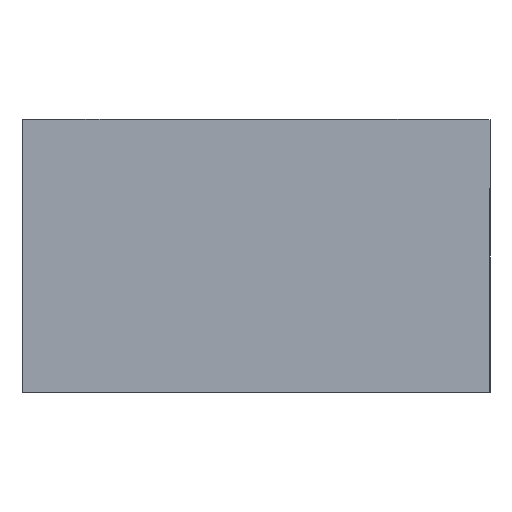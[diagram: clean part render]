
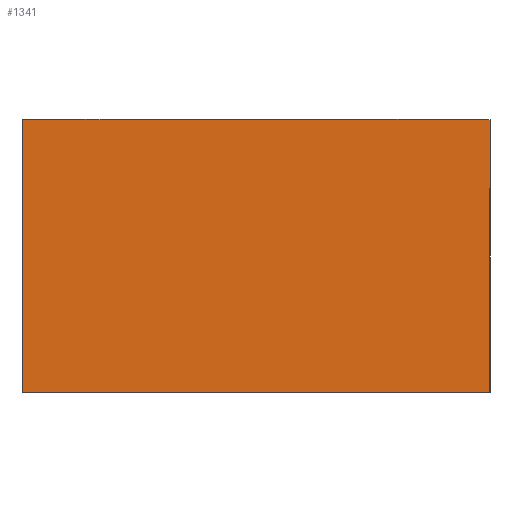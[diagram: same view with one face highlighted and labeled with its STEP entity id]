
A CAD part, front view. The second image highlights one B-rep face of the part: STEP entity #1341.
In plain terms, the highlighted planar face has unit normal (0, -1, 0).
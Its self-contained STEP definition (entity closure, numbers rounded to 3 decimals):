
#108 = EDGE_CURVE ( 'NONE', #230, #1179, #2050, .T. ) ;
#136 = EDGE_CURVE ( 'NONE', #1179, #573, #1502, .T. ) ;
#156 = VERTEX_POINT ( 'NONE', #547 ) ;
#230 = VERTEX_POINT ( 'NONE', #552 ) ;
#276 = LINE ( 'NONE', #468, #2389 ) ;
#468 = CARTESIAN_POINT ( 'NONE',  ( -30., 0., 17.5 ) ) ;
#474 = CARTESIAN_POINT ( 'NONE',  ( 30., 0., -17.5 ) ) ;
#478 = DIRECTION ( 'NONE',  ( 0., 0., -1. ) ) ;
#481 = CARTESIAN_POINT ( 'NONE',  ( -30., 0., -17.5 ) ) ;
#487 = EDGE_CURVE ( 'NONE', #573, #156, #1959, .T. ) ;
#515 = DIRECTION ( 'NONE',  ( -1., 0., 0. ) ) ;
#547 = CARTESIAN_POINT ( 'NONE',  ( -30., 0., 17.5 ) ) ;
#552 = CARTESIAN_POINT ( 'NONE',  ( 30., 0., 17.5 ) ) ;
#573 = VERTEX_POINT ( 'NONE', #999 ) ;
#776 = AXIS2_PLACEMENT_3D ( 'NONE', #1805, #1832, #1834 ) ;
#883 = CARTESIAN_POINT ( 'NONE',  ( -30., 0., -17.5 ) ) ;
#908 = DIRECTION ( 'NONE',  ( 0., 0., 1. ) ) ;
#934 = VECTOR ( 'NONE', #478, 1000. ) ;
#999 = CARTESIAN_POINT ( 'NONE',  ( -30., 0., -17.5 ) ) ;
#1154 = EDGE_LOOP ( 'NONE', ( #2534, #1783, #2303, #2392 ) ) ;
#1179 = VERTEX_POINT ( 'NONE', #1291 ) ;
#1289 = DIRECTION ( 'NONE',  ( 1., 0., 0. ) ) ;
#1291 = CARTESIAN_POINT ( 'NONE',  ( 30., 0., -17.5 ) ) ;
#1341 = ADVANCED_FACE ( 'NONE', ( #1607 ), #1796, .F. ) ;
#1502 = LINE ( 'NONE', #481, #2441 ) ;
#1607 = FACE_OUTER_BOUND ( 'NONE', #1154, .T. ) ;
#1783 = ORIENTED_EDGE ( 'NONE', *, *, #2405, .F. ) ;
#1796 = PLANE ( 'NONE',  #776 ) ;
#1805 = CARTESIAN_POINT ( 'NONE',  ( 0., 0., 0. ) ) ;
#1832 = DIRECTION ( 'NONE',  ( 0., 1., 0. ) ) ;
#1834 = DIRECTION ( 'NONE',  ( 0., 0., 1. ) ) ;
#1895 = VECTOR ( 'NONE', #908, 1000. ) ;
#1959 = LINE ( 'NONE', #883, #1895 ) ;
#2050 = LINE ( 'NONE', #474, #934 ) ;
#2303 = ORIENTED_EDGE ( 'NONE', *, *, #487, .F. ) ;
#2389 = VECTOR ( 'NONE', #1289, 1000. ) ;
#2392 = ORIENTED_EDGE ( 'NONE', *, *, #136, .F. ) ;
#2405 = EDGE_CURVE ( 'NONE', #156, #230, #276, .T. ) ;
#2441 = VECTOR ( 'NONE', #515, 1000. ) ;
#2534 = ORIENTED_EDGE ( 'NONE', *, *, #108, .F. ) ;
